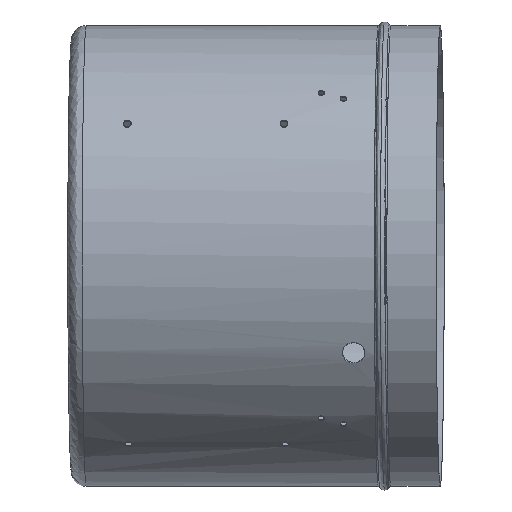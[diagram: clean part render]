
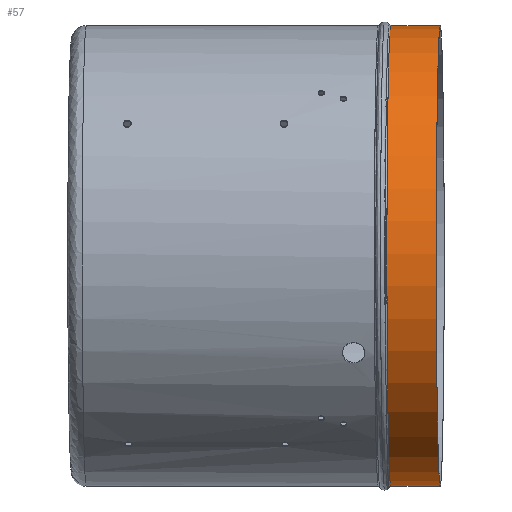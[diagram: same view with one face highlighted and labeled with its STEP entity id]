
A CAD part, top view. The second image highlights one B-rep face of the part: STEP entity #57.
In plain terms, the highlighted cylindrical face has radius 124.999 mm (diameter 249.998 mm), a partial arc.
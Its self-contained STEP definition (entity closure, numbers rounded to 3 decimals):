
#57=ADVANCED_FACE('',(#133),#1220,.T.);
#133=FACE_OUTER_BOUND('',#210,.T.);
#210=EDGE_LOOP('',(#334,#335,#336,#337));
#334=ORIENTED_EDGE('',*,*,#712,.T.);
#335=ORIENTED_EDGE('',*,*,#706,.T.);
#336=ORIENTED_EDGE('',*,*,#703,.F.);
#337=ORIENTED_EDGE('',*,*,#704,.T.);
#703=EDGE_CURVE('',#1079,#1078,#1013,.T.);
#704=EDGE_CURVE('',#1079,#1080,#888,.T.);
#706=EDGE_CURVE('',#1081,#1078,#889,.T.);
#712=EDGE_CURVE('',#1080,#1081,#1020,.T.);
#888=B_SPLINE_CURVE_WITH_KNOTS('',1,(#3708,#3709),.UNSPECIFIED.,.F.,.F.,
(2,2),(0.,26.773),.UNSPECIFIED.);
#889=B_SPLINE_CURVE_WITH_KNOTS('',1,(#3715,#3716),.UNSPECIFIED.,.F.,.F.,
(2,2),(-26.773,0.),.UNSPECIFIED.);
#1013=(
BOUNDED_CURVE()
B_SPLINE_CURVE(2,(#3703,#3704,#3705,#3706,#3707),.UNSPECIFIED.,.F.,.F.)
B_SPLINE_CURVE_WITH_KNOTS((3,2,3),(-392.696,-196.348,0.),
 .UNSPECIFIED.)
CURVE()
GEOMETRIC_REPRESENTATION_ITEM()
RATIONAL_B_SPLINE_CURVE((1.,0.707,1.,0.707,1.))
REPRESENTATION_ITEM('')
);
#1020=(
BOUNDED_CURVE()
B_SPLINE_CURVE(2,(#3738,#3739,#3740,#3741,#3742),.UNSPECIFIED.,.F.,.F.)
B_SPLINE_CURVE_WITH_KNOTS((3,2,3),(-392.696,-196.348,0.),
 .UNSPECIFIED.)
CURVE()
GEOMETRIC_REPRESENTATION_ITEM()
RATIONAL_B_SPLINE_CURVE((1.,0.707,1.,0.707,1.))
REPRESENTATION_ITEM('')
);
#1078=VERTEX_POINT('',#3572);
#1079=VERTEX_POINT('',#3573);
#1080=VERTEX_POINT('',#3574);
#1081=VERTEX_POINT('',#3575);
#1220=CYLINDRICAL_SURFACE('',#1357,124.999);
#1357=AXIS2_PLACEMENT_3D('',#1467,#1412,$);
#1412=DIRECTION('',(1.,0.,0.017));
#1467=CARTESIAN_POINT('',(124.891,0.,-132.879));
#3572=CARTESIAN_POINT('',(138.275,-124.999,-132.648));
#3573=CARTESIAN_POINT('',(138.275,124.999,-132.648));
#3574=CARTESIAN_POINT('',(111.506,124.999,-133.11));
#3575=CARTESIAN_POINT('',(111.506,-124.999,-133.11));
#3703=CARTESIAN_POINT('',(138.275,124.999,-132.648));
#3704=CARTESIAN_POINT('',(136.118,124.999,-7.668));
#3705=CARTESIAN_POINT('',(136.118,0.,-7.668));
#3706=CARTESIAN_POINT('',(136.118,-124.999,-7.668));
#3707=CARTESIAN_POINT('',(138.275,-124.999,-132.648));
#3708=CARTESIAN_POINT('',(138.275,124.999,-132.648));
#3709=CARTESIAN_POINT('',(111.506,124.999,-133.11));
#3715=CARTESIAN_POINT('',(111.506,-124.999,-133.11));
#3716=CARTESIAN_POINT('',(138.275,-124.999,-132.648));
#3738=CARTESIAN_POINT('',(111.506,124.999,-133.11));
#3739=CARTESIAN_POINT('',(109.349,124.999,-8.13));
#3740=CARTESIAN_POINT('',(109.349,0.,-8.13));
#3741=CARTESIAN_POINT('',(109.349,-124.999,-8.13));
#3742=CARTESIAN_POINT('',(111.506,-124.999,-133.11));
